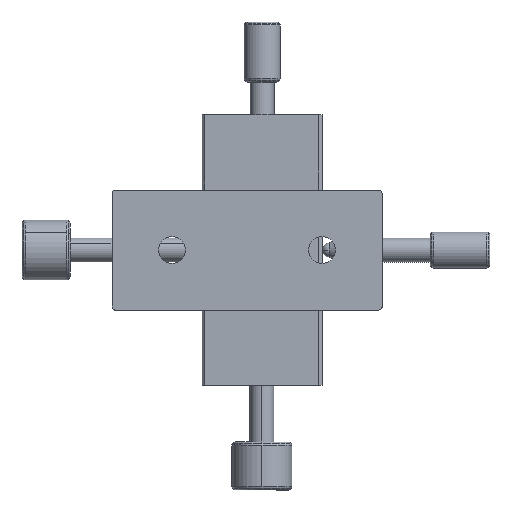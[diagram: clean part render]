
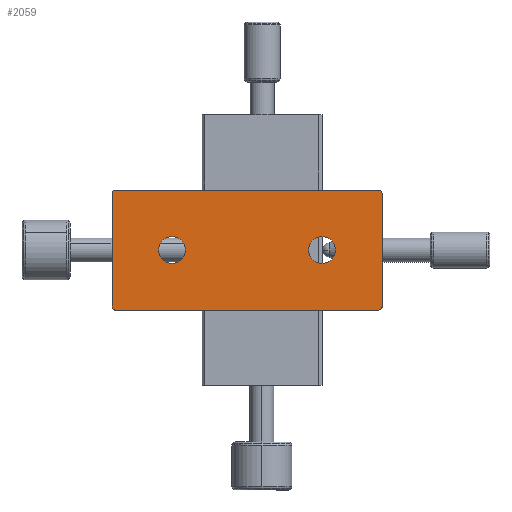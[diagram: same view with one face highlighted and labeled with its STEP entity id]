
A CAD part, front view. The second image highlights one B-rep face of the part: STEP entity #2059.
In plain terms, the highlighted planar face has unit normal (0, -1, 0).
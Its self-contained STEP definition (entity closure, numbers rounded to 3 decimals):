
#677 = LINE ( 'NONE', #41961, #34197 ) ;
#826 = ORIENTED_EDGE ( 'NONE', *, *, #8182, .F. ) ;
#1514 = VERTEX_POINT ( 'NONE', #5243 ) ;
#2059 = ADVANCED_FACE ( 'NONE', ( #5914, #14542, #39369 ), #35371, .F. ) ;
#3310 = EDGE_CURVE ( 'NONE', #21704, #8945, #21038, .T. ) ;
#3492 = LINE ( 'NONE', #16272, #12187 ) ;
#3580 = EDGE_CURVE ( 'NONE', #11805, #29918, #24555, .T. ) ;
#3998 = EDGE_CURVE ( 'NONE', #11805, #37075, #11425, .T. ) ;
#4198 = EDGE_LOOP ( 'NONE', ( #13911, #6909 ) ) ;
#4520 = CARTESIAN_POINT ( 'NONE',  ( -22., 0., 10. ) ) ;
#4643 = DIRECTION ( 'NONE',  ( 0., 1., 0. ) ) ;
#4857 = DIRECTION ( 'NONE',  ( 0., 0., 1. ) ) ;
#4957 = DIRECTION ( 'NONE',  ( 0., -1., 0. ) ) ;
#4965 = CARTESIAN_POINT ( 'NONE',  ( -22., 0., 9.5 ) ) ;
#5243 = CARTESIAN_POINT ( 'NONE',  ( -22., 0., -10. ) ) ;
#5314 = CARTESIAN_POINT ( 'NONE',  ( -22., 0., -9.5 ) ) ;
#5770 = ORIENTED_EDGE ( 'NONE', *, *, #3998, .F. ) ;
#5914 = FACE_BOUND ( 'NONE', #30593, .T. ) ;
#6909 = ORIENTED_EDGE ( 'NONE', *, *, #22433, .T. ) ;
#6966 = ORIENTED_EDGE ( 'NONE', *, *, #29549, .T. ) ;
#7218 = AXIS2_PLACEMENT_3D ( 'NONE', #5314, #27970, #8559 ) ;
#7242 = DIRECTION ( 'NONE',  ( 0., -1., 0. ) ) ;
#7717 = ORIENTED_EDGE ( 'NONE', *, *, #3310, .T. ) ;
#8182 = EDGE_CURVE ( 'NONE', #15994, #10203, #677, .T. ) ;
#8332 = AXIS2_PLACEMENT_3D ( 'NONE', #12168, #34783, #15383 ) ;
#8444 = CARTESIAN_POINT ( 'NONE',  ( -12.5, 0., 0. ) ) ;
#8559 = DIRECTION ( 'NONE',  ( 0., 0., 1. ) ) ;
#8945 = VERTEX_POINT ( 'NONE', #22193 ) ;
#9656 = ORIENTED_EDGE ( 'NONE', *, *, #3580, .T. ) ;
#10003 = VECTOR ( 'NONE', #15274, 1000. ) ;
#10203 = VERTEX_POINT ( 'NONE', #41627 ) ;
#10408 = CARTESIAN_POINT ( 'NONE',  ( 22., 0., -10. ) ) ;
#10785 = CARTESIAN_POINT ( 'NONE',  ( -22.5, 0., 9.5 ) ) ;
#11039 = LINE ( 'NONE', #37934, #10003 ) ;
#11425 = LINE ( 'NONE', #34841, #27572 ) ;
#11786 = DIRECTION ( 'NONE',  ( 0., 0., 1. ) ) ;
#11805 = VERTEX_POINT ( 'NONE', #4520 ) ;
#12168 = CARTESIAN_POINT ( 'NONE',  ( 22., 0., -9.5 ) ) ;
#12187 = VECTOR ( 'NONE', #32389, 1000. ) ;
#13549 = EDGE_CURVE ( 'NONE', #41725, #10203, #38486, .T. ) ;
#13911 = ORIENTED_EDGE ( 'NONE', *, *, #38950, .T. ) ;
#14542 = FACE_BOUND ( 'NONE', #4198, .T. ) ;
#14868 = DIRECTION ( 'NONE',  ( 0., 1., 0. ) ) ;
#15186 = ORIENTED_EDGE ( 'NONE', *, *, #38110, .F. ) ;
#15274 = DIRECTION ( 'NONE',  ( 0., 0., 1. ) ) ;
#15383 = DIRECTION ( 'NONE',  ( 0., 0., 1. ) ) ;
#15859 = VERTEX_POINT ( 'NONE', #39658 ) ;
#15994 = VERTEX_POINT ( 'NONE', #23902 ) ;
#16004 = EDGE_CURVE ( 'NONE', #8945, #21704, #26214, .T. ) ;
#16272 = CARTESIAN_POINT ( 'NONE',  ( -22.5, 0., -10. ) ) ;
#16590 = EDGE_LOOP ( 'NONE', ( #17135, #38767, #826, #6966, #5770, #9656, #15186, #25166 ) ) ;
#16886 = DIRECTION ( 'NONE',  ( 0., 0., 1. ) ) ;
#17032 = DIRECTION ( 'NONE',  ( 0., 1., 0. ) ) ;
#17082 = CARTESIAN_POINT ( 'NONE',  ( 12.5, 0., 0. ) ) ;
#17135 = ORIENTED_EDGE ( 'NONE', *, *, #24505, .F. ) ;
#17509 = CARTESIAN_POINT ( 'NONE',  ( -22.5, 0., -9.5 ) ) ;
#18424 = CIRCLE ( 'NONE', #32516, 0.5 ) ;
#18702 = CIRCLE ( 'NONE', #7218, 0.5 ) ;
#21038 = CIRCLE ( 'NONE', #37463, 2.25 ) ;
#21704 = VERTEX_POINT ( 'NONE', #32624 ) ;
#22193 = CARTESIAN_POINT ( 'NONE',  ( 12.5, 0., -2.25 ) ) ;
#22339 = VERTEX_POINT ( 'NONE', #17509 ) ;
#22433 = EDGE_CURVE ( 'NONE', #15859, #34558, #24275, .T. ) ;
#22462 = ORIENTED_EDGE ( 'NONE', *, *, #16004, .T. ) ;
#23902 = CARTESIAN_POINT ( 'NONE',  ( 22.5, 0., 9.5 ) ) ;
#24041 = CARTESIAN_POINT ( 'NONE',  ( 12.5, 0., 0. ) ) ;
#24275 = CIRCLE ( 'NONE', #25351, 2.25 ) ;
#24505 = EDGE_CURVE ( 'NONE', #41725, #1514, #3492, .T. ) ;
#24555 = CIRCLE ( 'NONE', #27928, 0.5 ) ;
#25166 = ORIENTED_EDGE ( 'NONE', *, *, #25557, .T. ) ;
#25351 = AXIS2_PLACEMENT_3D ( 'NONE', #8444, #31103, #11786 ) ;
#25415 = AXIS2_PLACEMENT_3D ( 'NONE', #34255, #14868, #37543 ) ;
#25557 = EDGE_CURVE ( 'NONE', #22339, #1514, #18702, .T. ) ;
#26214 = CIRCLE ( 'NONE', #38274, 2.25 ) ;
#26634 = CARTESIAN_POINT ( 'NONE',  ( 22., 0., 9.5 ) ) ;
#27306 = DIRECTION ( 'NONE',  ( 0., 0., 1. ) ) ;
#27572 = VECTOR ( 'NONE', #35078, 1000. ) ;
#27928 = AXIS2_PLACEMENT_3D ( 'NONE', #4965, #4957, #4857 ) ;
#27970 = DIRECTION ( 'NONE',  ( 0., -1., 0. ) ) ;
#29549 = EDGE_CURVE ( 'NONE', #15994, #37075, #18424, .T. ) ;
#29854 = DIRECTION ( 'NONE',  ( 0., 0., 1. ) ) ;
#29918 = VERTEX_POINT ( 'NONE', #10785 ) ;
#30593 = EDGE_LOOP ( 'NONE', ( #7717, #22462 ) ) ;
#31103 = DIRECTION ( 'NONE',  ( 0., 1., 0. ) ) ;
#32389 = DIRECTION ( 'NONE',  ( -1., 0., 0. ) ) ;
#32516 = AXIS2_PLACEMENT_3D ( 'NONE', #26634, #7242, #29854 ) ;
#32624 = CARTESIAN_POINT ( 'NONE',  ( 12.5, 0., 2.25 ) ) ;
#34197 = VECTOR ( 'NONE', #41492, 1000. ) ;
#34255 = CARTESIAN_POINT ( 'NONE',  ( -12.5, 0., 0. ) ) ;
#34558 = VERTEX_POINT ( 'NONE', #39674 ) ;
#34783 = DIRECTION ( 'NONE',  ( 0., -1., 0. ) ) ;
#34841 = CARTESIAN_POINT ( 'NONE',  ( -22.5, 0., 10. ) ) ;
#35078 = DIRECTION ( 'NONE',  ( 1., 0., 0. ) ) ;
#35291 = DIRECTION ( 'NONE',  ( 0., 0., 1. ) ) ;
#35328 = DIRECTION ( 'NONE',  ( 0., 1., 0. ) ) ;
#35371 = PLANE ( 'NONE',  #36008 ) ;
#35520 = CARTESIAN_POINT ( 'NONE',  ( -22.5, 0., 10. ) ) ;
#36008 = AXIS2_PLACEMENT_3D ( 'NONE', #35520, #35328, #35291 ) ;
#36084 = CARTESIAN_POINT ( 'NONE',  ( 22., 0., 10. ) ) ;
#37075 = VERTEX_POINT ( 'NONE', #36084 ) ;
#37463 = AXIS2_PLACEMENT_3D ( 'NONE', #17082, #17032, #16886 ) ;
#37543 = DIRECTION ( 'NONE',  ( 0., 0., 1. ) ) ;
#37934 = CARTESIAN_POINT ( 'NONE',  ( -22.5, 0., -10. ) ) ;
#38110 = EDGE_CURVE ( 'NONE', #22339, #29918, #11039, .T. ) ;
#38274 = AXIS2_PLACEMENT_3D ( 'NONE', #24041, #4643, #27306 ) ;
#38486 = CIRCLE ( 'NONE', #8332, 0.5 ) ;
#38767 = ORIENTED_EDGE ( 'NONE', *, *, #13549, .T. ) ;
#38950 = EDGE_CURVE ( 'NONE', #34558, #15859, #39928, .T. ) ;
#39369 = FACE_OUTER_BOUND ( 'NONE', #16590, .T. ) ;
#39658 = CARTESIAN_POINT ( 'NONE',  ( -12.5, 0., -2.25 ) ) ;
#39674 = CARTESIAN_POINT ( 'NONE',  ( -12.5, 0., 2.25 ) ) ;
#39928 = CIRCLE ( 'NONE', #25415, 2.25 ) ;
#41492 = DIRECTION ( 'NONE',  ( 0., 0., -1. ) ) ;
#41627 = CARTESIAN_POINT ( 'NONE',  ( 22.5, 0., -9.5 ) ) ;
#41725 = VERTEX_POINT ( 'NONE', #10408 ) ;
#41961 = CARTESIAN_POINT ( 'NONE',  ( 22.5, 0., -10. ) ) ;
